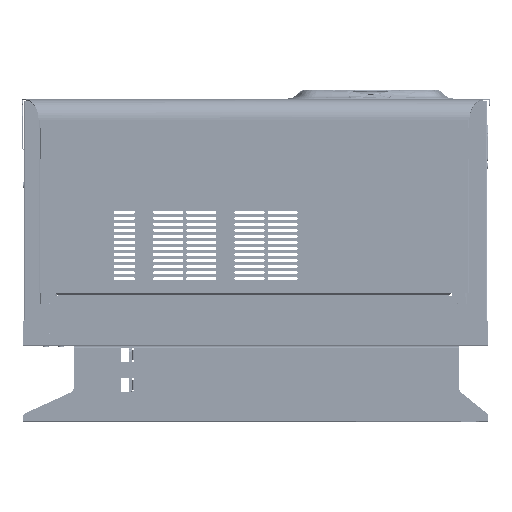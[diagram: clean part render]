
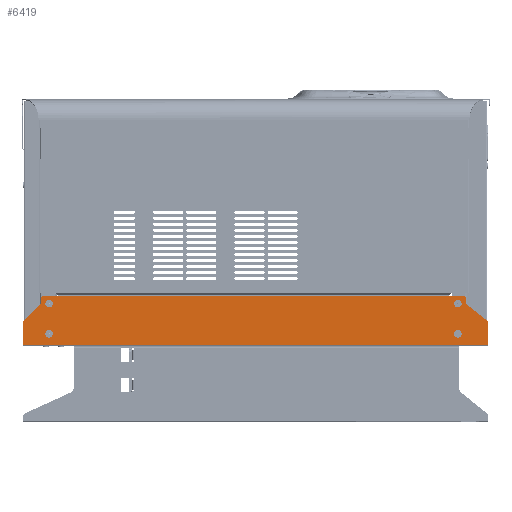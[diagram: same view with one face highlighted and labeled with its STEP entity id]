
A CAD part, front view. The second image highlights one B-rep face of the part: STEP entity #6419.
In plain terms, the highlighted planar face has unit normal (0, -1, 0).
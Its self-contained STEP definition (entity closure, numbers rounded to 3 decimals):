
#6419 = ADVANCED_FACE( '', ( #14519, #14520, #14521, #14522, #14523 ), #14524, .F. );
#14519 = FACE_BOUND( '', #25511, .T. );
#14520 = FACE_BOUND( '', #25512, .T. );
#14521 = FACE_BOUND( '', #25513, .T. );
#14522 = FACE_BOUND( '', #25514, .T. );
#14523 = FACE_OUTER_BOUND( '', #25515, .T. );
#14524 = PLANE( '', #25516 );
#25511 = EDGE_LOOP( '', ( #44414 ) );
#25512 = EDGE_LOOP( '', ( #44415 ) );
#25513 = EDGE_LOOP( '', ( #44416 ) );
#25514 = EDGE_LOOP( '', ( #44417 ) );
#25515 = EDGE_LOOP( '', ( #44418, #44419, #44420, #44421, #44422, #44423, #44424, #44425, #44426, #44427 ) );
#25516 = AXIS2_PLACEMENT_3D( '', #44428, #44429, #44430 );
#44414 = ORIENTED_EDGE( '', *, *, #68096, .T. );
#44415 = ORIENTED_EDGE( '', *, *, #68147, .T. );
#44416 = ORIENTED_EDGE( '', *, *, #66474, .T. );
#44417 = ORIENTED_EDGE( '', *, *, #67534, .T. );
#44418 = ORIENTED_EDGE( '', *, *, #68148, .T. );
#44419 = ORIENTED_EDGE( '', *, *, #67240, .T. );
#44420 = ORIENTED_EDGE( '', *, *, #63974, .T. );
#44421 = ORIENTED_EDGE( '', *, *, #66751, .T. );
#44422 = ORIENTED_EDGE( '', *, *, #62330, .T. );
#44423 = ORIENTED_EDGE( '', *, *, #68149, .T. );
#44424 = ORIENTED_EDGE( '', *, *, #68150, .T. );
#44425 = ORIENTED_EDGE( '', *, *, #64472, .T. );
#44426 = ORIENTED_EDGE( '', *, *, #65442, .T. );
#44427 = ORIENTED_EDGE( '', *, *, #68151, .T. );
#44428 = CARTESIAN_POINT( '', ( 210., -112.5, 1.377 ) );
#44429 = DIRECTION( '', ( 0., 1., 0. ) );
#44430 = DIRECTION( '', ( 0., 0., 1. ) );
#62330 = EDGE_CURVE( '', #74766, #74764, #74767, .T. );
#63974 = EDGE_CURVE( '', #77675, #77676, #77677, .T. );
#64472 = EDGE_CURVE( '', #78515, #78513, #78516, .T. );
#65442 = EDGE_CURVE( '', #78513, #80089, #80091, .T. );
#66474 = EDGE_CURVE( '', #81762, #81762, #81763, .T. );
#66751 = EDGE_CURVE( '', #77676, #74766, #82180, .T. );
#67240 = EDGE_CURVE( '', #82920, #77675, #82921, .F. );
#67534 = EDGE_CURVE( '', #83364, #83364, #83365, .T. );
#68096 = EDGE_CURVE( '', #84197, #84197, #84198, .T. );
#68147 = EDGE_CURVE( '', #84269, #84269, #84270, .T. );
#68148 = EDGE_CURVE( '', #84271, #82920, #84272, .T. );
#68149 = EDGE_CURVE( '', #74764, #84273, #84274, .T. );
#68150 = EDGE_CURVE( '', #84273, #78515, #84275, .T. );
#68151 = EDGE_CURVE( '', #80089, #84271, #84276, .F. );
#74764 = VERTEX_POINT( '', #92607 );
#74766 = VERTEX_POINT( '', #92609 );
#74767 = LINE( '', #92610, #92611 );
#77675 = VERTEX_POINT( '', #97519 );
#77676 = VERTEX_POINT( '', #97520 );
#77677 = LINE( '', #97521, #97522 );
#78513 = VERTEX_POINT( '', #98721 );
#78515 = VERTEX_POINT( '', #98724 );
#78516 = LINE( '', #98725, #98726 );
#80089 = VERTEX_POINT( '', #100956 );
#80091 = LINE( '', #100959, #100960 );
#81762 = VERTEX_POINT( '', #103359 );
#81763 = CIRCLE( '', #103360, 3.75 );
#82180 = LINE( '', #103932, #103933 );
#82920 = VERTEX_POINT( '', #104944 );
#82921 = CIRCLE( '', #104945, 2. );
#83364 = VERTEX_POINT( '', #105556 );
#83365 = CIRCLE( '', #105557, 3.75 );
#84197 = VERTEX_POINT( '', #106711 );
#84198 = CIRCLE( '', #106712, 3.75 );
#84269 = VERTEX_POINT( '', #106816 );
#84270 = CIRCLE( '', #106817, 3.75 );
#84271 = VERTEX_POINT( '', #106818 );
#84272 = LINE( '', #106819, #106820 );
#84273 = VERTEX_POINT( '', #106821 );
#84274 = LINE( '', #106822, #106823 );
#84275 = LINE( '', #106824, #106825 );
#84276 = CIRCLE( '', #106826, 2. );
#92607 = CARTESIAN_POINT( '', ( -231.5, -112.5, 1.51 ) );
#92609 = CARTESIAN_POINT( '', ( -231.5, -112.5, 25. ) );
#92610 = CARTESIAN_POINT( '', ( -231.5, -112.5, 1.377 ) );
#92611 = VECTOR( '', #116681, 1000. );
#97519 = CARTESIAN_POINT( '', ( -214., -112.5, 48. ) );
#97520 = CARTESIAN_POINT( '', ( -214., -112.5, 42. ) );
#97521 = CARTESIAN_POINT( '', ( -214., -112.5, 42. ) );
#97522 = VECTOR( '', #118822, 1000. );
#98721 = CARTESIAN_POINT( '', ( 210., -112.5, 42. ) );
#98724 = CARTESIAN_POINT( '', ( 231.5, -112.5, 25. ) );
#98725 = CARTESIAN_POINT( '', ( 231.5, -112.5, 25. ) );
#98726 = VECTOR( '', #119470, 1000. );
#100956 = CARTESIAN_POINT( '', ( 210., -112.5, 48. ) );
#100959 = CARTESIAN_POINT( '', ( 210., -112.5, 42. ) );
#100960 = VECTOR( '', #120693, 1000. );
#103359 = CARTESIAN_POINT( '', ( 201.5, -112.5, 46.25 ) );
#103360 = AXIS2_PLACEMENT_3D( '', #122235, #122236, #122237 );
#103932 = CARTESIAN_POINT( '', ( -231.5, -112.5, 25. ) );
#103933 = VECTOR( '', #122552, 1000. );
#104944 = CARTESIAN_POINT( '', ( -212., -112.5, 50. ) );
#104945 = AXIS2_PLACEMENT_3D( '', #123186, #123187, #123188 );
#105556 = CARTESIAN_POINT( '', ( -205.5, -112.5, 16.25 ) );
#105557 = AXIS2_PLACEMENT_3D( '', #123567, #123568, #123569 );
#106711 = CARTESIAN_POINT( '', ( -205.5, -112.5, 46.25 ) );
#106712 = AXIS2_PLACEMENT_3D( '', #124206, #124207, #124208 );
#106816 = CARTESIAN_POINT( '', ( 201.5, -112.5, 16.25 ) );
#106817 = AXIS2_PLACEMENT_3D( '', #124266, #124267, #124268 );
#106818 = CARTESIAN_POINT( '', ( 208., -112.5, 50. ) );
#106819 = CARTESIAN_POINT( '', ( 210., -112.5, 50. ) );
#106820 = VECTOR( '', #124269, 1000. );
#106821 = CARTESIAN_POINT( '', ( 231.5, -112.5, 1.51 ) );
#106822 = CARTESIAN_POINT( '', ( -231.5, -112.5, 1.51 ) );
#106823 = VECTOR( '', #124270, 1000. );
#106824 = CARTESIAN_POINT( '', ( 231.5, -112.5, 1.377 ) );
#106825 = VECTOR( '', #124271, 1000. );
#106826 = AXIS2_PLACEMENT_3D( '', #124272, #124273, #124274 );
#116681 = DIRECTION( '', ( 0., 0., -1. ) );
#118822 = DIRECTION( '', ( 0., 0., -1. ) );
#119470 = DIRECTION( '', ( -0.784, 0., 0.62 ) );
#120693 = DIRECTION( '', ( 0., 0., 1. ) );
#122235 = CARTESIAN_POINT( '', ( 201.5, -112.5, 42.5 ) );
#122236 = DIRECTION( '', ( 0., 1., 0. ) );
#122237 = DIRECTION( '', ( 0., 0., 1. ) );
#122552 = DIRECTION( '', ( -0.717, 0., -0.697 ) );
#123186 = CARTESIAN_POINT( '', ( -212., -112.5, 48. ) );
#123187 = DIRECTION( '', ( 0., 1., 0. ) );
#123188 = DIRECTION( '', ( 0., 0., 1. ) );
#123567 = CARTESIAN_POINT( '', ( -205.5, -112.5, 12.5 ) );
#123568 = DIRECTION( '', ( 0., 1., 0. ) );
#123569 = DIRECTION( '', ( 0., 0., 1. ) );
#124206 = CARTESIAN_POINT( '', ( -205.5, -112.5, 42.5 ) );
#124207 = DIRECTION( '', ( 0., 1., 0. ) );
#124208 = DIRECTION( '', ( 0., 0., 1. ) );
#124266 = CARTESIAN_POINT( '', ( 201.5, -112.5, 12.5 ) );
#124267 = DIRECTION( '', ( 0., 1., 0. ) );
#124268 = DIRECTION( '', ( 0., 0., 1. ) );
#124269 = DIRECTION( '', ( -1., 0., 0. ) );
#124270 = DIRECTION( '', ( 1., 0., 0. ) );
#124271 = DIRECTION( '', ( 0., 0., 1. ) );
#124272 = CARTESIAN_POINT( '', ( 208., -112.5, 48. ) );
#124273 = DIRECTION( '', ( 0., 1., 0. ) );
#124274 = DIRECTION( '', ( 0., 0., 1. ) );
